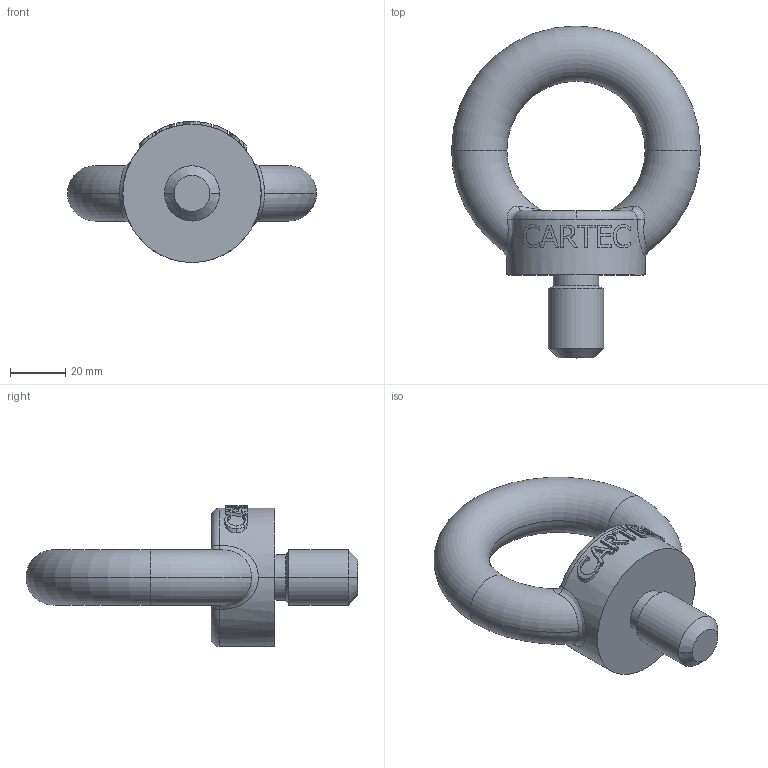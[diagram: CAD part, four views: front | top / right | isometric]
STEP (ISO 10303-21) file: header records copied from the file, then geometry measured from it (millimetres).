
FILE_DESCRIPTION(('STEP AP214'),'1');
FILE_NAME('c80320.stp','2017-03-22T15:15:58',('TraceParts'),('TraceParts S.A.'),'Spatial InterOp 3D',' ',' ');
FILE_SCHEMA(('automotive_design'));
Length unit declared in the file: millimetre
Products named in the file (1): c80320
Bounding box: 90 x 120 x 51 mm (x, y, z)
Volume: 107431.4 mm3; surface area: 19597.1 mm2
Topology: 1 solids, 1 shells, 128 faces, 339 edges, 220 vertices
Faces by surface type: plane 53, bspline 47, cylinder 14, torus 10, cone 4
Entity records: 6152 total; most frequent: CARTESIAN_POINT 2164, ORIENTED_EDGE 678, DIRECTION 509, EDGE_CURVE 339, VERTEX_POINT 220, AXIS2_PLACEMENT_3D 188, EDGE_LOOP 137, LINE 133
